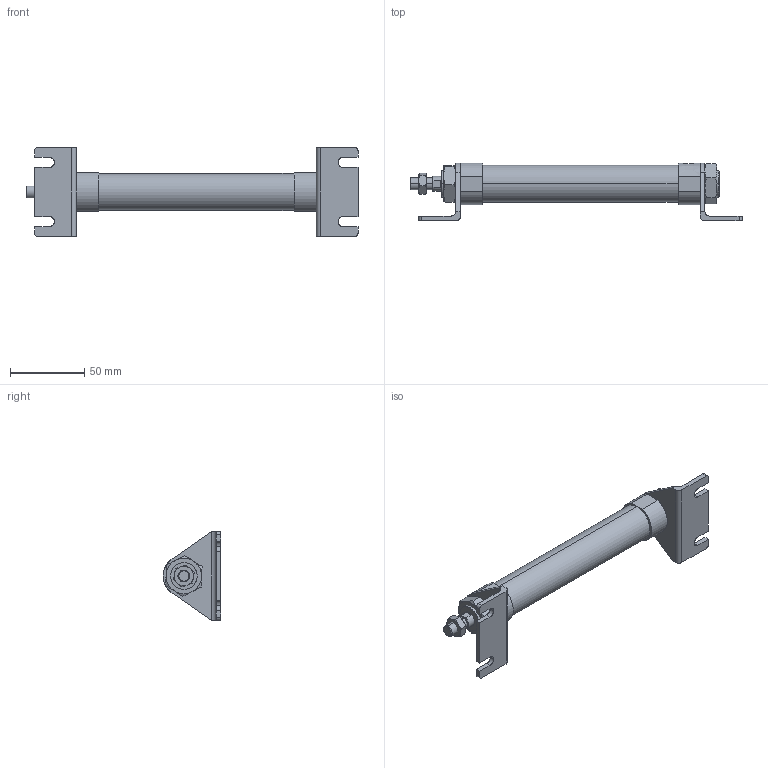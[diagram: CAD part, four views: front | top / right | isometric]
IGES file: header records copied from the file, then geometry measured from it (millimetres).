
Start section: SolidWorks IGES file using analytic representation for surfaces
Global section: file name: C:\Users\Toshiba\Desktop\J#1-20-50-L.IGS; native system: SolidWorks 2014; preprocessor: SolidWorks 2014; author: Toshiba; date: 160310.084526; units: millimetre
Bounding box: 224.2 x 39 x 60 mm (x, y, z)
Surface area: 32778 mm2 (no closed solid volume)
Topology: 0 solids, 0 shells, 165 faces, 2566 edges, 2566 vertices
Faces by surface type: bspline 109, revolution 56
